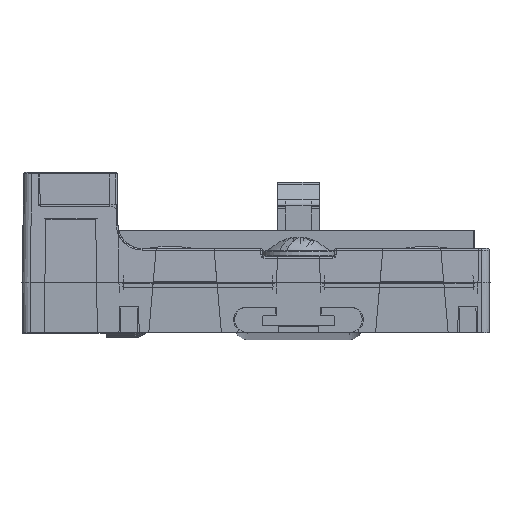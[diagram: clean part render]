
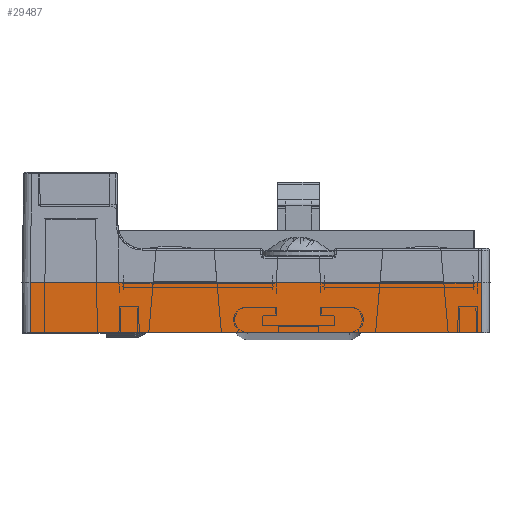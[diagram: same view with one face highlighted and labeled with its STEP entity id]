
A CAD part, top view. The second image highlights one B-rep face of the part: STEP entity #29487.
In plain terms, the highlighted planar face has unit normal (0, -0.018, 1).
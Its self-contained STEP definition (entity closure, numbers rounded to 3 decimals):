
#3880=FACE_OUTER_BOUND('',#5572,.T.);
#5572=EDGE_LOOP('',(#23051,#23052,#23053,#23054));
#9098=LINE('',#53757,#11191);
#9388=LINE('',#56415,#11481);
#9400=LINE('',#56447,#11493);
#9401=LINE('',#56449,#11494);
#11191=VECTOR('',#34842,10.);
#11481=VECTOR('',#36090,10.);
#11493=VECTOR('',#36122,10.);
#11494=VECTOR('',#36125,10.);
#13588=VERTEX_POINT('',#53754);
#13589=VERTEX_POINT('',#53756);
#13932=VERTEX_POINT('',#56199);
#13947=VERTEX_POINT('',#56414);
#16645=EDGE_CURVE('',#13588,#13589,#9098,.T.);
#17265=EDGE_CURVE('',#13947,#13932,#9388,.T.);
#17282=EDGE_CURVE('',#13589,#13932,#9400,.T.);
#17283=EDGE_CURVE('',#13947,#13588,#9401,.T.);
#23051=ORIENTED_EDGE('',*,*,#17282,.F.);
#23052=ORIENTED_EDGE('',*,*,#16645,.F.);
#23053=ORIENTED_EDGE('',*,*,#17283,.F.);
#23054=ORIENTED_EDGE('',*,*,#17265,.T.);
#28492=PLANE('',#31650);
#29487=ADVANCED_FACE('',(#3880),#28492,.T.);
#31650=AXIS2_PLACEMENT_3D('',#56448,#36123,#36124);
#34842=DIRECTION('',(-1.,0.,0.));
#36090=DIRECTION('',(-1.,0.,0.));
#36122=DIRECTION('',(-0.017,1.,0.017));
#36123=DIRECTION('center_axis',(0.,-0.017,
1.));
#36124=DIRECTION('ref_axis',(0.,1.,0.017));
#36125=DIRECTION('',(-0.017,-1.,-0.017));
#53754=CARTESIAN_POINT('',(1.163,-20.064,509.162));
#53756=CARTESIAN_POINT('',(-55.018,-20.064,509.162));
#53757=CARTESIAN_POINT('',(-16.678,-20.064,509.162));
#56199=CARTESIAN_POINT('',(-55.128,-13.764,509.272));
#56414=CARTESIAN_POINT('',(1.273,-13.764,509.272));
#56415=CARTESIAN_POINT('',(-9.678,-13.764,509.272));
#56447=CARTESIAN_POINT('',(-55.062,-17.512,509.206));
#56448=CARTESIAN_POINT('Origin',(2.272,-16.864,509.218));
#56449=CARTESIAN_POINT('',(1.216,-17.002,509.215));
